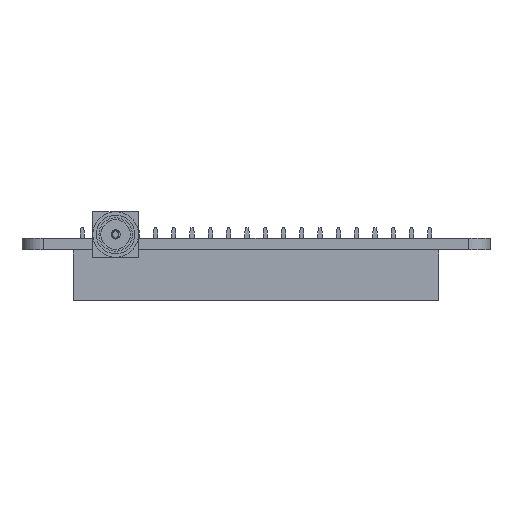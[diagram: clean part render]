
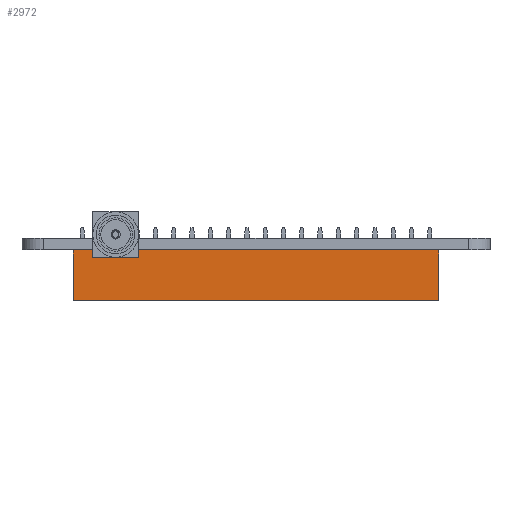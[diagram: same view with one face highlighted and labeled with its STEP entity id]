
A CAD part, front view. The second image highlights one B-rep face of the part: STEP entity #2972.
In plain terms, the highlighted planar face has unit normal (0, -1, 0) as drawn and (1, 0, 0) by its records, which use the part's own axes.
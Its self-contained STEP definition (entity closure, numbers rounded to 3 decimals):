
#2972 = ADVANCED_FACE('',(#2973),#2987,.F.);
#2973 = FACE_BOUND('',#2974,.F.);
#2974 = EDGE_LOOP('',(#2975,#3010,#3038,#3066));
#2975 = ORIENTED_EDGE('',*,*,#2976,.T.);
#2976 = EDGE_CURVE('',#2977,#2979,#2981,.T.);
#2977 = VERTEX_POINT('',#2978);
#2978 = CARTESIAN_POINT('',(1.27,-49.53,0.));
#2979 = VERTEX_POINT('',#2980);
#2980 = CARTESIAN_POINT('',(1.27,-49.53,7.));
#2981 = SURFACE_CURVE('',#2982,(#2986,#2998),.PCURVE_S1.);
#2982 = LINE('',#2983,#2984);
#2983 = CARTESIAN_POINT('',(1.27,-49.53,0.));
#2984 = VECTOR('',#2985,1.);
#2985 = DIRECTION('',(0.,0.,1.));
#2986 = PCURVE('',#2987,#2992);
#2987 = PLANE('',#2988);
#2988 = AXIS2_PLACEMENT_3D('',#2989,#2990,#2991);
#2989 = CARTESIAN_POINT('',(1.27,-49.53,0.));
#2990 = DIRECTION('',(-1.,0.,0.));
#2991 = DIRECTION('',(0.,1.,0.));
#2992 = DEFINITIONAL_REPRESENTATION('',(#2993),#2997);
#2993 = LINE('',#2994,#2995);
#2994 = CARTESIAN_POINT('',(0.,0.));
#2995 = VECTOR('',#2996,1.);
#2996 = DIRECTION('',(0.,-1.));
#2997 = ( GEOMETRIC_REPRESENTATION_CONTEXT(2) 
PARAMETRIC_REPRESENTATION_CONTEXT() REPRESENTATION_CONTEXT('2D SPACE',''
  ) );
#2998 = PCURVE('',#2999,#3004);
#2999 = PLANE('',#3000);
#3000 = AXIS2_PLACEMENT_3D('',#3001,#3002,#3003);
#3001 = CARTESIAN_POINT('',(-3.81,-49.53,0.));
#3002 = DIRECTION('',(0.,1.,0.));
#3003 = DIRECTION('',(1.,0.,0.));
#3004 = DEFINITIONAL_REPRESENTATION('',(#3005),#3009);
#3005 = LINE('',#3006,#3007);
#3006 = CARTESIAN_POINT('',(5.08,0.));
#3007 = VECTOR('',#3008,1.);
#3008 = DIRECTION('',(0.,-1.));
#3009 = ( GEOMETRIC_REPRESENTATION_CONTEXT(2) 
PARAMETRIC_REPRESENTATION_CONTEXT() REPRESENTATION_CONTEXT('2D SPACE',''
  ) );
#3010 = ORIENTED_EDGE('',*,*,#3011,.T.);
#3011 = EDGE_CURVE('',#2979,#3012,#3014,.T.);
#3012 = VERTEX_POINT('',#3013);
#3013 = CARTESIAN_POINT('',(1.27,1.27,7.));
#3014 = SURFACE_CURVE('',#3015,(#3019,#3026),.PCURVE_S1.);
#3015 = LINE('',#3016,#3017);
#3016 = CARTESIAN_POINT('',(1.27,-49.53,7.));
#3017 = VECTOR('',#3018,1.);
#3018 = DIRECTION('',(0.,1.,0.));
#3019 = PCURVE('',#2987,#3020);
#3020 = DEFINITIONAL_REPRESENTATION('',(#3021),#3025);
#3021 = LINE('',#3022,#3023);
#3022 = CARTESIAN_POINT('',(0.,-7.));
#3023 = VECTOR('',#3024,1.);
#3024 = DIRECTION('',(1.,0.));
#3025 = ( GEOMETRIC_REPRESENTATION_CONTEXT(2) 
PARAMETRIC_REPRESENTATION_CONTEXT() REPRESENTATION_CONTEXT('2D SPACE',''
  ) );
#3026 = PCURVE('',#3027,#3032);
#3027 = PLANE('',#3028);
#3028 = AXIS2_PLACEMENT_3D('',#3029,#3030,#3031);
#3029 = CARTESIAN_POINT('',(1.27,-49.53,7.));
#3030 = DIRECTION('',(-0.,0.,-1.));
#3031 = DIRECTION('',(0.,-1.,-0.));
#3032 = DEFINITIONAL_REPRESENTATION('',(#3033),#3037);
#3033 = LINE('',#3034,#3035);
#3034 = CARTESIAN_POINT('',(0.,0.));
#3035 = VECTOR('',#3036,1.);
#3036 = DIRECTION('',(-1.,0.));
#3037 = ( GEOMETRIC_REPRESENTATION_CONTEXT(2) 
PARAMETRIC_REPRESENTATION_CONTEXT() REPRESENTATION_CONTEXT('2D SPACE',''
  ) );
#3038 = ORIENTED_EDGE('',*,*,#3039,.F.);
#3039 = EDGE_CURVE('',#3040,#3012,#3042,.T.);
#3040 = VERTEX_POINT('',#3041);
#3041 = CARTESIAN_POINT('',(1.27,1.27,0.));
#3042 = SURFACE_CURVE('',#3043,(#3047,#3054),.PCURVE_S1.);
#3043 = LINE('',#3044,#3045);
#3044 = CARTESIAN_POINT('',(1.27,1.27,0.));
#3045 = VECTOR('',#3046,1.);
#3046 = DIRECTION('',(0.,0.,1.));
#3047 = PCURVE('',#2987,#3048);
#3048 = DEFINITIONAL_REPRESENTATION('',(#3049),#3053);
#3049 = LINE('',#3050,#3051);
#3050 = CARTESIAN_POINT('',(50.8,0.));
#3051 = VECTOR('',#3052,1.);
#3052 = DIRECTION('',(0.,-1.));
#3053 = ( GEOMETRIC_REPRESENTATION_CONTEXT(2) 
PARAMETRIC_REPRESENTATION_CONTEXT() REPRESENTATION_CONTEXT('2D SPACE',''
  ) );
#3054 = PCURVE('',#3055,#3060);
#3055 = PLANE('',#3056);
#3056 = AXIS2_PLACEMENT_3D('',#3057,#3058,#3059);
#3057 = CARTESIAN_POINT('',(1.27,1.27,0.));
#3058 = DIRECTION('',(0.,-1.,0.));
#3059 = DIRECTION('',(-1.,0.,0.));
#3060 = DEFINITIONAL_REPRESENTATION('',(#3061),#3065);
#3061 = LINE('',#3062,#3063);
#3062 = CARTESIAN_POINT('',(0.,0.));
#3063 = VECTOR('',#3064,1.);
#3064 = DIRECTION('',(0.,-1.));
#3065 = ( GEOMETRIC_REPRESENTATION_CONTEXT(2) 
PARAMETRIC_REPRESENTATION_CONTEXT() REPRESENTATION_CONTEXT('2D SPACE',''
  ) );
#3066 = ORIENTED_EDGE('',*,*,#3067,.F.);
#3067 = EDGE_CURVE('',#2977,#3040,#3068,.T.);
#3068 = SURFACE_CURVE('',#3069,(#3073,#3080),.PCURVE_S1.);
#3069 = LINE('',#3070,#3071);
#3070 = CARTESIAN_POINT('',(1.27,-49.53,0.));
#3071 = VECTOR('',#3072,1.);
#3072 = DIRECTION('',(0.,1.,0.));
#3073 = PCURVE('',#2987,#3074);
#3074 = DEFINITIONAL_REPRESENTATION('',(#3075),#3079);
#3075 = LINE('',#3076,#3077);
#3076 = CARTESIAN_POINT('',(0.,0.));
#3077 = VECTOR('',#3078,1.);
#3078 = DIRECTION('',(1.,0.));
#3079 = ( GEOMETRIC_REPRESENTATION_CONTEXT(2) 
PARAMETRIC_REPRESENTATION_CONTEXT() REPRESENTATION_CONTEXT('2D SPACE',''
  ) );
#3080 = PCURVE('',#3081,#3086);
#3081 = PLANE('',#3082);
#3082 = AXIS2_PLACEMENT_3D('',#3083,#3084,#3085);
#3083 = CARTESIAN_POINT('',(1.27,-49.53,0.));
#3084 = DIRECTION('',(-0.,0.,-1.));
#3085 = DIRECTION('',(0.,-1.,-0.));
#3086 = DEFINITIONAL_REPRESENTATION('',(#3087),#3091);
#3087 = LINE('',#3088,#3089);
#3088 = CARTESIAN_POINT('',(0.,0.));
#3089 = VECTOR('',#3090,1.);
#3090 = DIRECTION('',(-1.,0.));
#3091 = ( GEOMETRIC_REPRESENTATION_CONTEXT(2) 
PARAMETRIC_REPRESENTATION_CONTEXT() REPRESENTATION_CONTEXT('2D SPACE',''
  ) );
